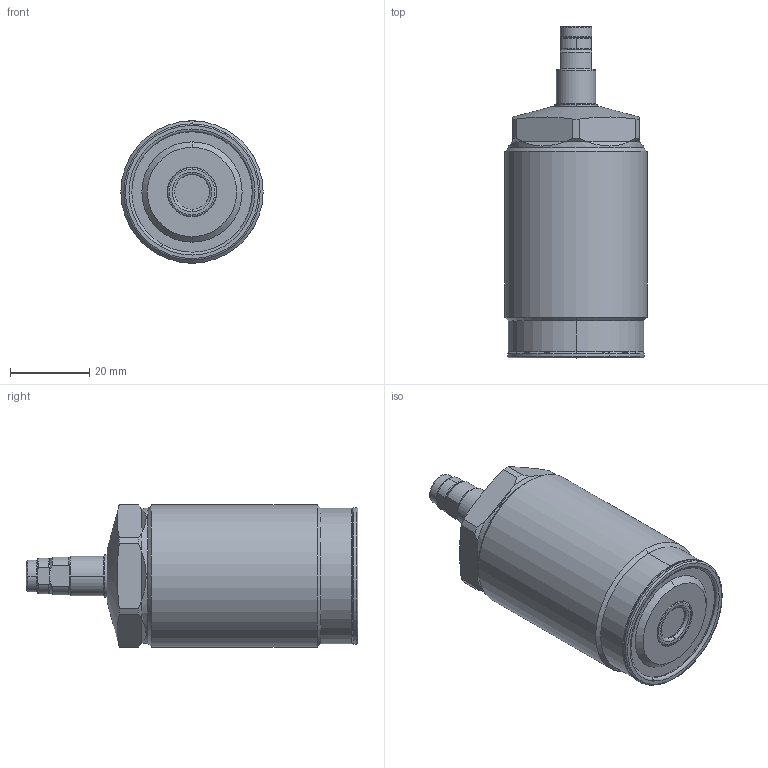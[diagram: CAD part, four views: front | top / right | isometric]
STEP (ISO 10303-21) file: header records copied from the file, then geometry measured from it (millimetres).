
FILE_DESCRIPTION(/* description */ (''),/* implementation_level */ '2;1');
FILE_NAME(/* name */ 'TNE36-M.stp',/* time_stamp */ '2025-01-11T08:21:00+08:00',/* author */ (''),/* organization */ (''),/* preprocessor_version */ 'ST-DEVELOPER v16.7',/* originating_system */ 'SIEMENS PLM Software NX 12.0',/* authorisation */ '');
FILE_SCHEMA (('AUTOMOTIVE_DESIGN { 1 0 10303 214 3 1 1 1 }'));
Length unit declared in the file: millimetre
Products named in the file (10): XLD-M6SP_pad; XLD-M6SP_pin; XLD-M6SP_contactbolt; XLD-M6SP_Oring; TNE36-M01956; TNE36-M05; TNE36-M02; TNE36-M04; XLDM6SP; TNE36_stp
Assembly tree (9 placements, depth 3):
  TNE36_stp
    TNE36-M04
    TNE36-M02
    TNE36-M05
    TNE36-M01956
    XLDM6SP
      XLD-M6SP_Oring
      XLD-M6SP_contactbolt
      XLD-M6SP_pin
      XLD-M6SP_pad
Bounding box: 36 x 84 x 36 mm (x, y, z)
Volume: 61772.2 mm3; surface area: 10963 mm2
Topology: 8 solids, 8 shells, 200 faces, 446 edges, 267 vertices
Faces by surface type: cylinder 61, torus 48, plane 44, cone 43, sphere 4
Full cylindrical faces by diameter (mm): 34.2 x1, 36 x1
Entity records: 6233 total; most frequent: CARTESIAN_POINT 1441, DIRECTION 1071, ORIENTED_EDGE 884, AXIS2_PLACEMENT_3D 473, EDGE_CURVE 442, VERTEX_POINT 267, CIRCLE 257, EDGE_LOOP 225
